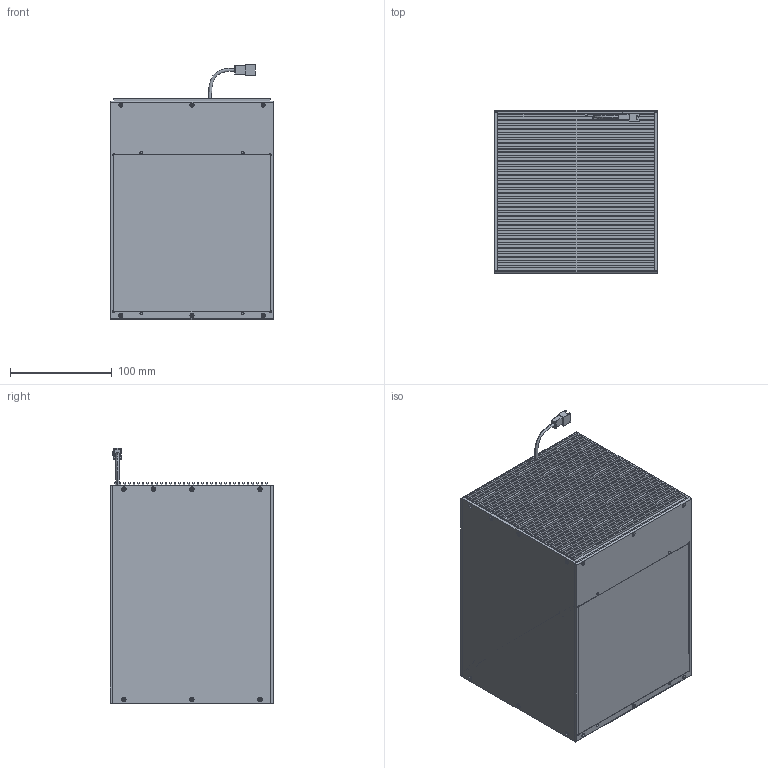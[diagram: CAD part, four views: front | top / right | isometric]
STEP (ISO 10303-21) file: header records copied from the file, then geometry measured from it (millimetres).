
FILE_DESCRIPTION (( 'STEP AP214' ), '1' );
FILE_NAME ('CAS3-00-150-X-X-24V ASSEMBLY.STEP', '2017-01-18T11:17:31', ( '' ), ( '' ), 'SwSTEP 2.0', 'SolidWorks 2016', '' );
FILE_SCHEMA (( 'AUTOMOTIVE_DESIGN' ));
Length unit declared in the file: millimetre
Products named in the file (17): CAS2-00-150X150-X-R-24V-AR MIRROR-CLEAR PERSPEX; CAS2-00-150X150-X-R-24V-BEAM SPLITTER; CAS3-00-150 HEAT SINK 37MM; CAS2-00-150X150-X-R-24V-DIFFUSER-WHITE PERSPEX (BALI COLOUR); CAS2-00-150X150-X-R-24V-DIFFUSER-WHITE PERSPEX (TW433C); CAS3-HEAT SINK ASSEMBLY; 24V CONNECTER; CABLE 3 MM; CAS3-00-150-X-X-24V-SIDE PLATE___; CAS3-00-150-X-X-24V-BOTTOM SIDE PLATE___; CAS3-00-150-X-X-24V ASSEMBLY; CAS3-00-150 HEAT SINK 122MM; CAS2-00-150X150-X-R-24V-PCB-SMD; CAS3-00-150-X-X-24V-TOP SIDE PLATE___; MirrorCAS2-00-150X150-X-R-24V-SIDE PLATE___; CAS3-00-150-X-X-24V-TOP PLATE___; CONNECTER  CABLE-24V-ASSY
Assembly tree (16 placements, depth 3):
  CAS3-00-150-X-X-24V ASSEMBLY
    CAS3-00-150-X-X-24V-TOP PLATE___
    CAS3-00-150-X-X-24V-BOTTOM SIDE PLATE___
    CAS3-00-150-X-X-24V-TOP SIDE PLATE___
    CAS3-00-150-X-X-24V-SIDE PLATE___
    CAS2-00-150X150-X-R-24V-DIFFUSER-WHITE PERSPEX (TW433C)
    CAS2-00-150X150-X-R-24V-BEAM SPLITTER
    CAS2-00-150X150-X-R-24V-AR MIRROR-CLEAR PERSPEX
    CONNECTER  CABLE-24V-ASSY
      CABLE 3 MM
      24V CONNECTER
    MirrorCAS2-00-150X150-X-R-24V-SIDE PLATE___
    CAS2-00-150X150-X-R-24V-PCB-SMD
    CAS3-HEAT SINK ASSEMBLY
      CAS3-00-150 HEAT SINK 122MM
      CAS3-00-150 HEAT SINK 37MM
    CAS2-00-150X150-X-R-24V-DIFFUSER-WHITE PERSPEX (BALI COLOUR)
Bounding box: 160 x 160.6 x 251.1 mm (x, y, z)
Volume: 814376.3 mm3; surface area: 598731.4 mm2
Topology: 14 solids, 14 shells, 753 faces, 2027 edges, 1262 vertices
Faces by surface type: plane 399, cylinder 218, cone 134, bspline 2
Entity records: 25095 total; most frequent: CARTESIAN_POINT 4268, DIRECTION 3963, ORIENTED_EDGE 3886, EDGE_CURVE 1943, VECTOR 1445, LINE 1445, VERTEX_POINT 1262, AXIS2_PLACEMENT_3D 1259
